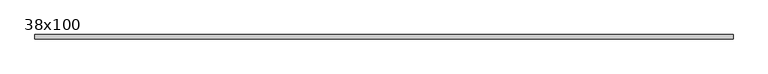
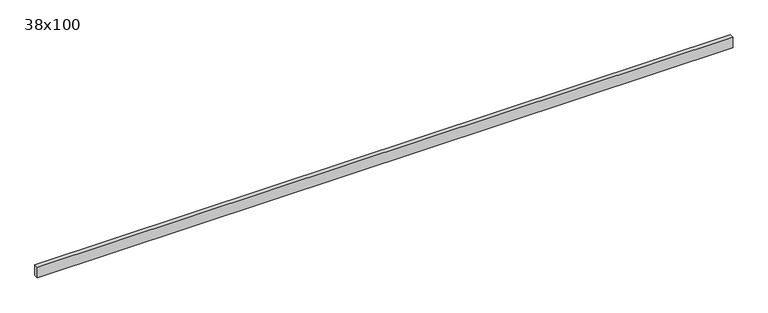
"""IFC4 building model written with IfcOpenShell, lengths in millimetres: beam geometry, Poutre - Bois de construction de dimensions courantes : 38x100."""

from ifc_helpers import new_model, si_unit, frame, origin, place, context, project, spatial, polyline, outline, extrude, source, transform, mapped, element, save


def beam_38x100_5168e33e(model_context):
    return source(origin(), model_context, "Body", "SweptSolid", [
        extrude(outline(polyline([(3046.5, 19.05), (3046.5, -19.05), (-3206.5, -19.05), (-3206.5, 19.05), (3046.5, 19.05)])), frame((0.0, 0.0, -50.0), z_axis=(0.0, 0.0, 1.0), x_axis=(1.0, 0.0, 0.0)), (0.0, 0.0, 1.0), 100.0),
    ])


if __name__ == "__main__":
    model = new_model("IFC4")
    model_context = context("Model", 3, world=origin())
    ifc_project = project(units=[si_unit("LENGTHUNIT", "METRE", prefix="MILLI")], contexts=[model_context])
    site = spatial("IfcSite", under=ifc_project)
    building = spatial("IfcBuilding", under=site)
    placement = place(None, origin())
    beam_38x100_shape = beam_38x100_5168e33e(model_context)
    element("IfcBeam", 1, ObjectType="Poutre - Bois de construction de dimensions courantes : 38x100", at=placement, inside=building, context=model_context, shape_type="MappedRepresentation", body=[
        mapped(beam_38x100_shape, transform((0.0, 0.0, 0.0), x_axis=(1.0, 0.0, 0.0), y_axis=(0.0, 1.0, 0.0), z_axis=(0.0, 0.0, 1.0))),
    ])
    save(model, "model.ifc")
